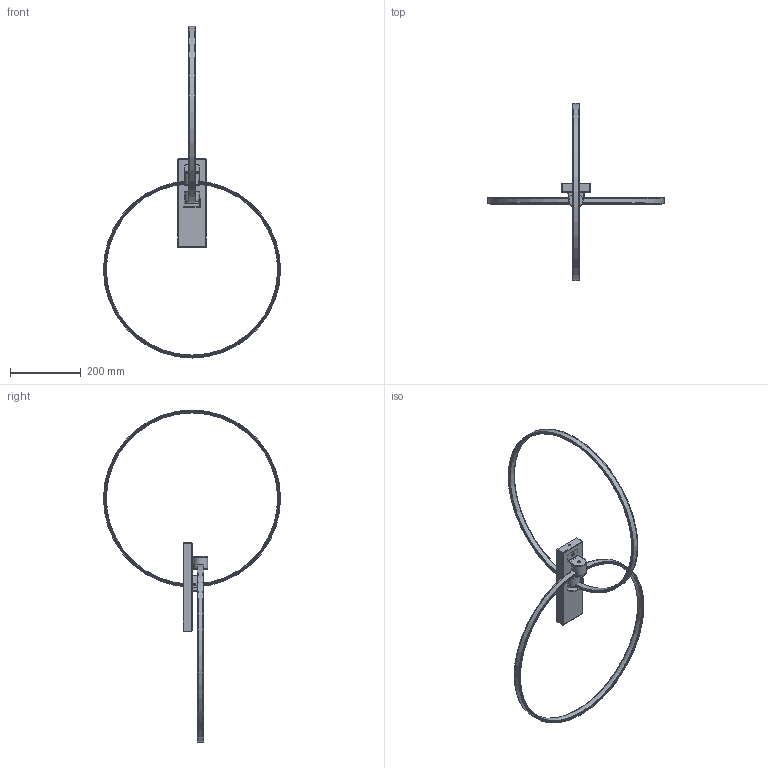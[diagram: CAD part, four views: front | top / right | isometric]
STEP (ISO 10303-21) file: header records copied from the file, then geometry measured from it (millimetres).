
FILE_DESCRIPTION( ( 'STEP AP203' ), '1' );
FILE_NAME( '//srvbf/BF Disegni/RING/RING-A Applique 3D.stp', '2020-10-15T13:48:35', ( ' ' ), ( ' ' ), 'XStep 1.0', ' ', ' ' );
FILE_SCHEMA( ( 'CONFIG_CONTROL_DESIGN) ( )' ) );
Length unit declared in the file: metre
Products named in the file (8): Assem1; Assem2; 1; 2; 3; 4; 5; 6
Bounding box: 499.94 x 499.94 x 937 mm (x, y, z)
Volume: 330153.7 mm3; surface area: 610515.2 mm2
Topology: 14 solids, 14 shells, 427 faces, 1111 edges, 720 vertices
Faces by surface type: plane 225, cylinder 110, torus 92
Full cylindrical faces by diameter (mm): 3.242 x4, 5 x4, 8.917 x5, 10 x8, 15 x2, 40 x4
Entity records: 6450 total; most frequent: CARTESIAN_POINT 1708, ORIENTED_EDGE 916, DIRECTION 896, EDGE_CURVE 458, AXIS2_PLACEMENT_3D 345, VERTEX_POINT 305, EDGE_LOOP 215, LINE 206
